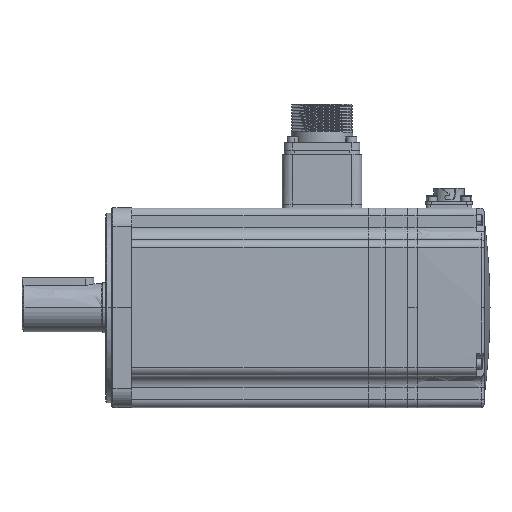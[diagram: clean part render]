
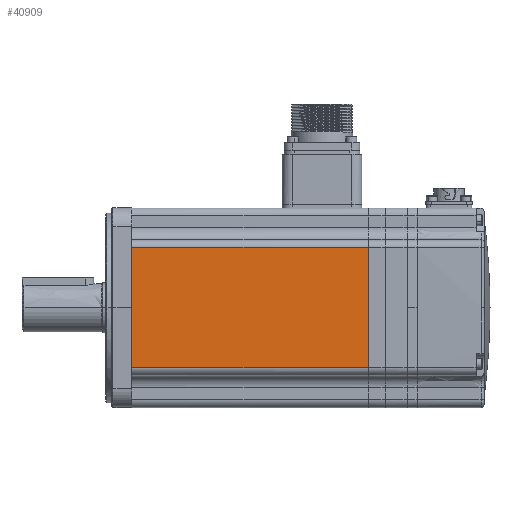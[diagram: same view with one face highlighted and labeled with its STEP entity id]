
A CAD part, top view. The second image highlights one B-rep face of the part: STEP entity #40909.
In plain terms, the highlighted free-form (B-spline) face has degree [1, 3] with [2, 4] control points.
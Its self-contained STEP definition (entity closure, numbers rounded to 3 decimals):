
#1406 = CARTESIAN_POINT ( 'NONE',  ( -30.186, -49.299, -59.25 ) ) ;
#2007 = CARTESIAN_POINT ( 'NONE',  ( -30.186, -49.299, -59.25 ) ) ;
#4379 = CARTESIAN_POINT ( 'NONE',  ( 10.069, -50.234, 59.25 ) ) ;
#5721 =( BOUNDED_SURFACE ( )  B_SPLINE_SURFACE ( 1, 3, ( 
 ( #76061, #4379, #46582, #10511 ),
 ( #52543, #16564, #58557, #22627 ) ),
 .UNSPECIFIED., .F., .F., .F. ) 
 B_SPLINE_SURFACE_WITH_KNOTS ( ( 2, 2 ),
 ( 4, 4 ),
 ( 0., 1. ),
 ( 0., 1. ),
 .UNSPECIFIED. ) 
 GEOMETRIC_REPRESENTATION_ITEM ( )  RATIONAL_B_SPLINE_SURFACE ( (
 ( 1., 0.999, 0.999, 1.),
 ( 1., 0.999, 0.999, 1.) ) ) 
 REPRESENTATION_ITEM ( '' )  SURFACE ( )  );
#7417 = B_SPLINE_CURVE_WITH_KNOTS ( 'NONE', 1,
 ( #36340, #18707 ),
 .UNSPECIFIED., .F., .F.,
 ( 2, 2 ),
 ( -1., 0. ),
 .UNSPECIFIED. ) ;
#9683 = EDGE_CURVE ( 'NONE', #73983, #18248, #29161, .T. ) ;
#10511 = CARTESIAN_POINT ( 'NONE',  ( -30.186, -49.299, 59.25 ) ) ;
#15174 = CARTESIAN_POINT ( 'NONE',  ( -20.129, -49.766, 59.25 ) ) ;
#16564 = CARTESIAN_POINT ( 'NONE',  ( 10.069, -50.234, -59.25 ) ) ;
#18248 = VERTEX_POINT ( 'NONE', #2007 ) ;
#18707 = CARTESIAN_POINT ( 'NONE',  ( 30.186, -49.299, 59.25 ) ) ;
#21247 = CARTESIAN_POINT ( 'NONE',  ( -10.067, -50., 59.25 ) ) ;
#22627 = CARTESIAN_POINT ( 'NONE',  ( -30.186, -49.299, -59.25 ) ) ;
#22954 = EDGE_CURVE ( 'NONE', #77954, #18248, #76579, .T. ) ;
#25439 = CARTESIAN_POINT ( 'NONE',  ( 30.186, -49.299, -59.25 ) ) ;
#27267 = CARTESIAN_POINT ( 'NONE',  ( 20.129, -49.766, 59.25 ) ) ;
#29161 = B_SPLINE_CURVE_WITH_KNOTS ( 'NONE', 1,
 ( #44158, #38118 ),
 .UNSPECIFIED., .F., .F.,
 ( 2, 2 ),
 ( -1., 0. ),
 .UNSPECIFIED. ) ;
#30279 = EDGE_LOOP ( 'NONE', ( #54860, #49226, #50253, #31435 ) ) ;
#31435 = ORIENTED_EDGE ( 'NONE', *, *, #22954, .F. ) ;
#31495 = CARTESIAN_POINT ( 'NONE',  ( 10.067, -50., -59.25 ) ) ;
#31552 = CARTESIAN_POINT ( 'NONE',  ( -30.186, -49.299, 59.25 ) ) ;
#33049 = CARTESIAN_POINT ( 'NONE',  ( 30.186, -49.299, -59.25 ) ) ;
#36340 = CARTESIAN_POINT ( 'NONE',  ( 30.186, -49.299, -59.25 ) ) ;
#37554 = CARTESIAN_POINT ( 'NONE',  ( -20.129, -49.766, -59.25 ) ) ;
#38118 = CARTESIAN_POINT ( 'NONE',  ( -30.186, -49.299, -59.25 ) ) ;
#40901 = B_SPLINE_CURVE_WITH_KNOTS ( 'NONE', 3,
 ( #51185, #15174, #21247, #63198, #27267, #69198 ),
 .UNSPECIFIED., .F., .F.,
 ( 4, 2, 4 ),
 ( 4.666, 4.712, 4.759 ),
 .UNSPECIFIED. ) ;
#40909 = ADVANCED_FACE ( 'NONE', ( #75379 ), #5721, .F. ) ;
#44153 = EDGE_CURVE ( 'NONE', #77954, #56707, #7417, .T. ) ;
#44158 = CARTESIAN_POINT ( 'NONE',  ( -30.186, -49.299, 59.25 ) ) ;
#46582 = CARTESIAN_POINT ( 'NONE',  ( -10.069, -50.234, 59.25 ) ) ;
#49226 = ORIENTED_EDGE ( 'NONE', *, *, #66334, .F. ) ;
#50253 = ORIENTED_EDGE ( 'NONE', *, *, #9683, .T. ) ;
#51185 = CARTESIAN_POINT ( 'NONE',  ( -30.186, -49.299, 59.25 ) ) ;
#52543 = CARTESIAN_POINT ( 'NONE',  ( 30.186, -49.299, -59.25 ) ) ;
#54860 = ORIENTED_EDGE ( 'NONE', *, *, #44153, .T. ) ;
#56707 = VERTEX_POINT ( 'NONE', #65801 ) ;
#58557 = CARTESIAN_POINT ( 'NONE',  ( -10.069, -50.234, -59.25 ) ) ;
#61117 = CARTESIAN_POINT ( 'NONE',  ( 20.129, -49.766, -59.25 ) ) ;
#63198 = CARTESIAN_POINT ( 'NONE',  ( 10.067, -50., 59.25 ) ) ;
#65801 = CARTESIAN_POINT ( 'NONE',  ( 30.186, -49.299, 59.25 ) ) ;
#66334 = EDGE_CURVE ( 'NONE', #73983, #56707, #40901, .T. ) ;
#69198 = CARTESIAN_POINT ( 'NONE',  ( 30.186, -49.299, 59.25 ) ) ;
#73387 = CARTESIAN_POINT ( 'NONE',  ( -10.067, -50., -59.25 ) ) ;
#73983 = VERTEX_POINT ( 'NONE', #31552 ) ;
#75379 = FACE_OUTER_BOUND ( 'NONE', #30279, .T. ) ;
#76061 = CARTESIAN_POINT ( 'NONE',  ( 30.186, -49.299, 59.25 ) ) ;
#76579 = B_SPLINE_CURVE_WITH_KNOTS ( 'NONE', 3,
 ( #25439, #61117, #31495, #73387, #37554, #1406 ),
 .UNSPECIFIED., .F., .F.,
 ( 4, 2, 4 ),
 ( 0., 0.046, 0.093 ),
 .UNSPECIFIED. ) ;
#77954 = VERTEX_POINT ( 'NONE', #33049 ) ;
